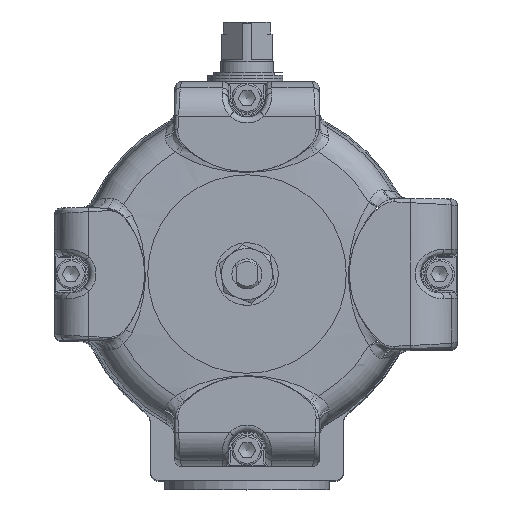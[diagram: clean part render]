
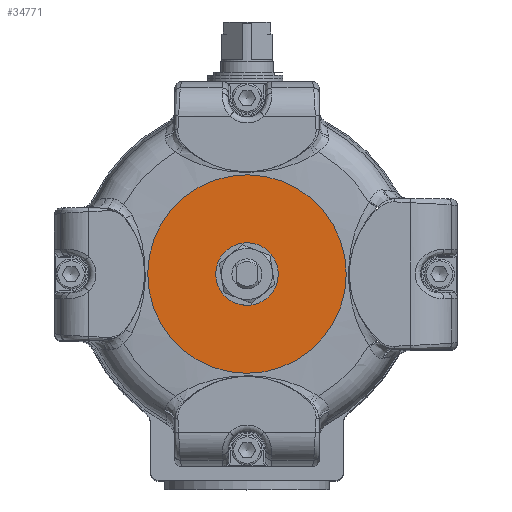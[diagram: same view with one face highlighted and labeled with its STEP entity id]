
A CAD part, top view. The second image highlights one B-rep face of the part: STEP entity #34771.
In plain terms, the highlighted planar face has unit normal (0, 0, 1).
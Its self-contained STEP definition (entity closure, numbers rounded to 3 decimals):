
#23091=CARTESIAN_POINT('',(33.0,0.0,131.5));
#23092=VERTEX_POINT('',#23091);
#23093=CARTESIAN_POINT('',(0.0,0.0,131.5));
#23094=DIRECTION('',(0.0,0.0,-1.0));
#23095=DIRECTION('',(1.0,0.0,0.0));
#23096=AXIS2_PLACEMENT_3D('',#23093,#23094,#23095);
#23097=CIRCLE('',#23096,33.0);
#23098=EDGE_CURVE('',#23092,#23092,#23097,.T.);
#34763=CARTESIAN_POINT('',(16.5,0.0,131.5));
#34764=DIRECTION('',(0.0,0.0,1.0));
#34765=DIRECTION('',(0.0,1.0,0.0));
#34766=AXIS2_PLACEMENT_3D('',#34763,#34764,#34765);
#34767=PLANE('',#34766);
#34768=ORIENTED_EDGE('',*,*,#23098,.F.);
#34769=EDGE_LOOP('',(#34768));
#34770=FACE_OUTER_BOUND('',#34769,.T.);
#34771=ADVANCED_FACE('',(#34770),#34767,.T.);
